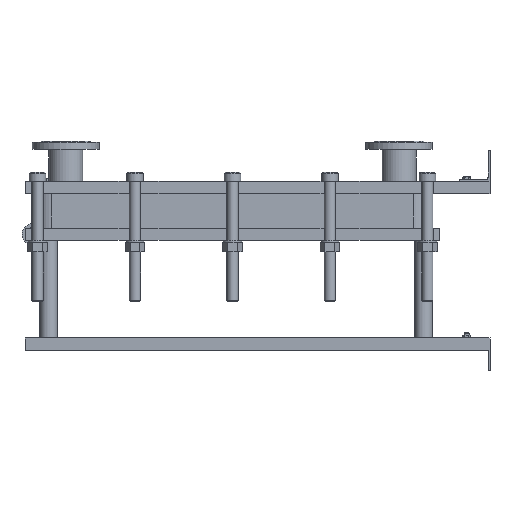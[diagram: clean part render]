
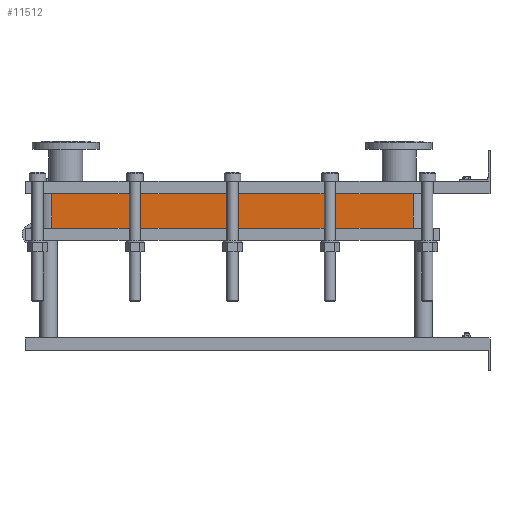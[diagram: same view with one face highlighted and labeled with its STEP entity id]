
A CAD part, left-side view. The second image highlights one B-rep face of the part: STEP entity #11512.
In plain terms, the highlighted planar face has unit normal (-1, 0, 0).
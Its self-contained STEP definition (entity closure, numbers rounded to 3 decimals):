
#1129=LINE('',#23232,#2102);
#1130=LINE('',#23236,#2103);
#1131=LINE('',#23238,#2104);
#1132=LINE('',#23239,#2105);
#2102=VECTOR('',#15887,10.);
#2103=VECTOR('',#15892,10.);
#2104=VECTOR('',#15893,10.);
#2105=VECTOR('',#15894,10.);
#3267=FACE_OUTER_BOUND('',#4093,.T.);
#4093=EDGE_LOOP('',(#10103,#10104,#10105,#10106));
#5642=VERTEX_POINT('',#23229);
#5643=VERTEX_POINT('',#23231);
#5644=VERTEX_POINT('',#23235);
#5645=VERTEX_POINT('',#23237);
#7159=EDGE_CURVE('',#5643,#5642,#1129,.T.);
#7161=EDGE_CURVE('',#5642,#5644,#1130,.T.);
#7162=EDGE_CURVE('',#5645,#5644,#1131,.T.);
#7163=EDGE_CURVE('',#5645,#5643,#1132,.T.);
#10103=ORIENTED_EDGE('',*,*,#7161,.T.);
#10104=ORIENTED_EDGE('',*,*,#7162,.F.);
#10105=ORIENTED_EDGE('',*,*,#7163,.T.);
#10106=ORIENTED_EDGE('',*,*,#7159,.T.);
#10857=PLANE('',#12751);
#11512=ADVANCED_FACE('',(#3267),#10857,.T.);
#12751=AXIS2_PLACEMENT_3D('',#23234,#15890,#15891);
#15887=DIRECTION('',(0.,0.,-1.));
#15890=DIRECTION('center_axis',(-1.,0.,0.));
#15891=DIRECTION('ref_axis',(0.,1.,0.));
#15892=DIRECTION('',(0.,-1.,0.));
#15893=DIRECTION('',(0.,0.,-1.));
#15894=DIRECTION('',(0.,1.,0.));
#23229=CARTESIAN_POINT('',(-200.,1414.,-110.4));
#23231=CARTESIAN_POINT('',(-200.,1414.,0.));
#23232=CARTESIAN_POINT('',(-200.,1414.,0.));
#23234=CARTESIAN_POINT('Origin',(-200.,248.,0.));
#23235=CARTESIAN_POINT('',(-200.,248.,-110.4));
#23236=CARTESIAN_POINT('',(-200.,539.5,-110.4));
#23237=CARTESIAN_POINT('',(-200.,248.,0.));
#23238=CARTESIAN_POINT('',(-200.,248.,0.));
#23239=CARTESIAN_POINT('',(-200.,248.,0.));
